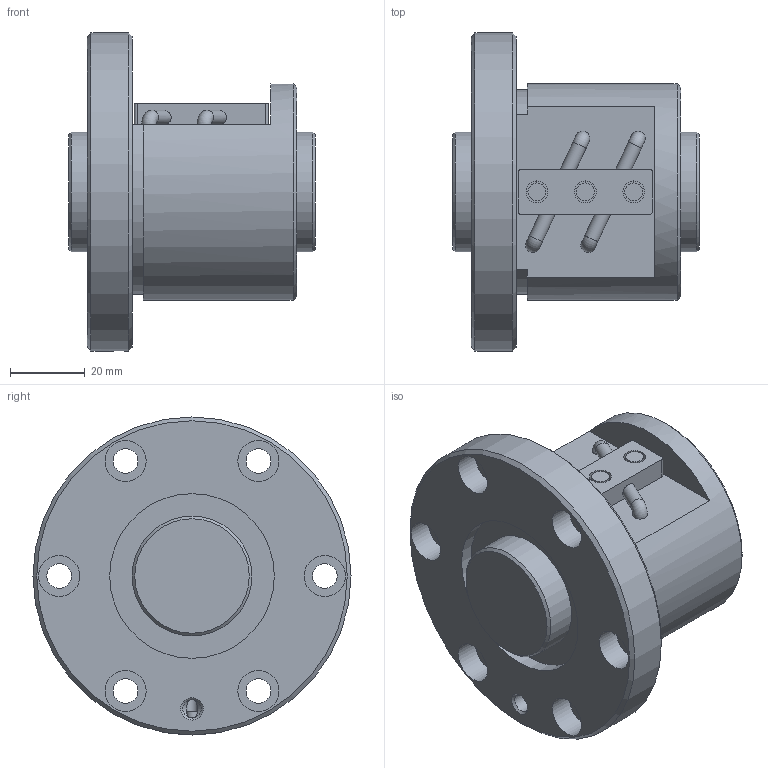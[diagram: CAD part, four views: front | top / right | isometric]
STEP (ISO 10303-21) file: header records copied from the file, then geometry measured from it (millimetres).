
FILE_DESCRIPTION(/* description */ ('STEP AP203'),/* implementation_level */ '2;1');
FILE_NAME(/* name */ 'BNF3205V-5RRG1+66LC0_000_rev',/* time_stamp */ '2024-08-06T07:36:24+02:00',/* author */ ('License CC BY-ND 4.0'),/* organization */ ('CADENAS'),/* preprocessor_version */ 'ST-DEVELOPER v19.3',/* originating_system */ 'PARTsolutions',/* authorisation */ ' ');
FILE_SCHEMA (('CONFIG_CONTROL_DESIGN'));
Length unit declared in the file: millimetre
Products named in the file (3): BNF3205V-5RRG1+66LC0_000_rev; BNF 3205-5RR000 Shaft; BNF 3205-5RR Nut
Assembly tree (2 placements, depth 2):
  BNF3205V-5RRG1+66LC0_000_rev
    BNF 3205-5RR000 Shaft
    BNF 3205-5RR Nut
Bounding box: 66 x 85 x 85 mm (x, y, z)
Volume: 171072.2 mm3; surface area: 38568.2 mm2
Topology: 2 solids, 2 shells, 78 faces, 172 edges, 113 vertices
Faces by surface type: cylinder 37, plane 29, cone 8, torus 4
Full cylindrical faces by diameter (mm): 3 x2, 3.865 x4, 4.8 x3, 4.917 x1, 5.8 x3, 6.6 x6, 11 x6, 32 x2, 44 x2, 58 x1, 85 x1
Entity records: 1991 total; most frequent: DIRECTION 352, CARTESIAN_POINT 341, ORIENTED_EDGE 230, AXIS2_PLACEMENT_3D 164, EDGE_LOOP 160, FACE_BOUND 160, EDGE_CURVE 115, VERTEX_POINT 99
